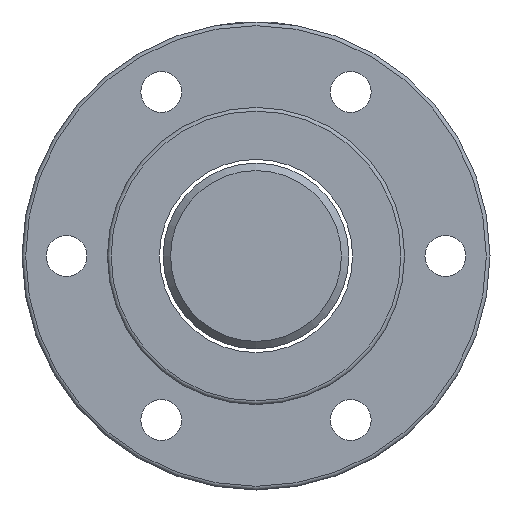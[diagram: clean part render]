
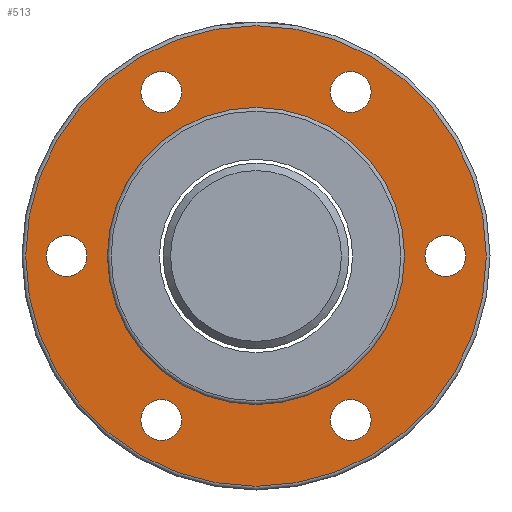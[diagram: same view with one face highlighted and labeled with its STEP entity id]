
A CAD part, left-side view. The second image highlights one B-rep face of the part: STEP entity #513.
In plain terms, the highlighted planar face has unit normal (-1, 0, 0).
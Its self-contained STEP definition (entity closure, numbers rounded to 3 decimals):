
#5 = AXIS2_PLACEMENT_3D ( 'NONE', #1270, #1918, #1962 ) ;
#11 = VERTEX_POINT ( 'NONE', #2876 ) ;
#31 = EDGE_CURVE ( 'NONE', #1355, #1355, #1048, .T. ) ;
#42 = DIRECTION ( 'NONE',  ( 0., 0., 1. ) ) ;
#51 = CIRCLE ( 'NONE', #1072, 2.75 ) ;
#85 = AXIS2_PLACEMENT_3D ( 'NONE', #2449, #1333, #42 ) ;
#100 = EDGE_CURVE ( 'NONE', #11, #11, #51, .T. ) ;
#110 = ORIENTED_EDGE ( 'NONE', *, *, #611, .F. ) ;
#229 = EDGE_LOOP ( 'NONE', ( #2832 ) ) ;
#232 = CARTESIAN_POINT ( 'NONE',  ( -26., 12.75, -22.084 ) ) ;
#242 = DIRECTION ( 'NONE',  ( 0., 0., 1. ) ) ;
#285 = AXIS2_PLACEMENT_3D ( 'NONE', #1301, #2373, #2155 ) ;
#329 = CARTESIAN_POINT ( 'NONE',  ( -26., -25.5, 2.75 ) ) ;
#349 = PLANE ( 'NONE',  #709 ) ;
#492 = CARTESIAN_POINT ( 'NONE',  ( -26., 25.5, 2.75 ) ) ;
#513 = ADVANCED_FACE ( 'NONE', ( #779, #514, #557, #2311, #2277, #1180, #2130, #2348 ), #349, .T. ) ;
#514 = FACE_BOUND ( 'NONE', #2396, .T. ) ;
#557 = FACE_BOUND ( 'NONE', #1747, .T. ) ;
#611 = EDGE_CURVE ( 'NONE', #2243, #2243, #1545, .T. ) ;
#645 = DIRECTION ( 'NONE',  ( -1., 0., 0. ) ) ;
#656 = CARTESIAN_POINT ( 'NONE',  ( -26., -12.75, 24.834 ) ) ;
#663 = CIRCLE ( 'NONE', #1638, 2.75 ) ;
#709 = AXIS2_PLACEMENT_3D ( 'NONE', #2382, #1025, #792 ) ;
#740 = DIRECTION ( 'NONE',  ( 0., 0., 1. ) ) ;
#771 = EDGE_LOOP ( 'NONE', ( #110 ) ) ;
#779 = FACE_BOUND ( 'NONE', #2174, .T. ) ;
#792 = DIRECTION ( 'NONE',  ( 0., 0., 1. ) ) ;
#808 = EDGE_LOOP ( 'NONE', ( #1277 ) ) ;
#819 = EDGE_CURVE ( 'NONE', #2499, #2499, #663, .T. ) ;
#848 = DIRECTION ( 'NONE',  ( -1., 0., 0. ) ) ;
#925 = EDGE_LOOP ( 'NONE', ( #2376 ) ) ;
#942 = EDGE_LOOP ( 'NONE', ( #2091 ) ) ;
#999 = CARTESIAN_POINT ( 'NONE',  ( -26., -25.5, 0. ) ) ;
#1025 = DIRECTION ( 'NONE',  ( -1., 0., 0. ) ) ;
#1048 = CIRCLE ( 'NONE', #2886, 2.75 ) ;
#1072 = AXIS2_PLACEMENT_3D ( 'NONE', #232, #848, #1565 ) ;
#1123 = AXIS2_PLACEMENT_3D ( 'NONE', #2773, #2121, #740 ) ;
#1131 = CARTESIAN_POINT ( 'NONE',  ( -26., 0., -20. ) ) ;
#1180 = FACE_BOUND ( 'NONE', #808, .T. ) ;
#1204 = VERTEX_POINT ( 'NONE', #329 ) ;
#1231 = ORIENTED_EDGE ( 'NONE', *, *, #2250, .F. ) ;
#1232 = EDGE_CURVE ( 'NONE', #2445, #2445, #2210, .T. ) ;
#1270 = CARTESIAN_POINT ( 'NONE',  ( -26., 0., 0. ) ) ;
#1277 = ORIENTED_EDGE ( 'NONE', *, *, #1859, .F. ) ;
#1301 = CARTESIAN_POINT ( 'NONE',  ( -26., 0., 0. ) ) ;
#1333 = DIRECTION ( 'NONE',  ( -1., 0., 0. ) ) ;
#1355 = VERTEX_POINT ( 'NONE', #2459 ) ;
#1382 = CIRCLE ( 'NONE', #85, 2.75 ) ;
#1400 = DIRECTION ( 'NONE',  ( -1., 0., 0. ) ) ;
#1416 = DIRECTION ( 'NONE',  ( 0., 0., 1. ) ) ;
#1475 = AXIS2_PLACEMENT_3D ( 'NONE', #999, #1400, #1416 ) ;
#1480 = DIRECTION ( 'NONE',  ( -1., 0., 0. ) ) ;
#1523 = ORIENTED_EDGE ( 'NONE', *, *, #1232, .F. ) ;
#1539 = DIRECTION ( 'NONE',  ( 0., 0., 1. ) ) ;
#1545 = CIRCLE ( 'NONE', #5, 31. ) ;
#1565 = DIRECTION ( 'NONE',  ( 0., 0., 1. ) ) ;
#1579 = VERTEX_POINT ( 'NONE', #1131 ) ;
#1593 = EDGE_CURVE ( 'NONE', #1579, #1579, #2580, .T. ) ;
#1638 = AXIS2_PLACEMENT_3D ( 'NONE', #2600, #1480, #242 ) ;
#1747 = EDGE_LOOP ( 'NONE', ( #1990 ) ) ;
#1768 = CIRCLE ( 'NONE', #1475, 2.75 ) ;
#1829 = CARTESIAN_POINT ( 'NONE',  ( -26., 12.75, 24.834 ) ) ;
#1859 = EDGE_CURVE ( 'NONE', #2894, #2894, #1382, .T. ) ;
#1918 = DIRECTION ( 'NONE',  ( 1., 0., 0. ) ) ;
#1962 = DIRECTION ( 'NONE',  ( 0., 0., -1. ) ) ;
#1990 = ORIENTED_EDGE ( 'NONE', *, *, #100, .F. ) ;
#2091 = ORIENTED_EDGE ( 'NONE', *, *, #819, .F. ) ;
#2121 = DIRECTION ( 'NONE',  ( -1., 0., 0. ) ) ;
#2130 = FACE_BOUND ( 'NONE', #925, .T. ) ;
#2155 = DIRECTION ( 'NONE',  ( 0., 0., -1. ) ) ;
#2174 = EDGE_LOOP ( 'NONE', ( #1523 ) ) ;
#2210 = CIRCLE ( 'NONE', #1123, 2.75 ) ;
#2243 = VERTEX_POINT ( 'NONE', #2487 ) ;
#2250 = EDGE_CURVE ( 'NONE', #1204, #1204, #1768, .T. ) ;
#2277 = FACE_BOUND ( 'NONE', #942, .T. ) ;
#2311 = FACE_BOUND ( 'NONE', #229, .T. ) ;
#2348 = FACE_OUTER_BOUND ( 'NONE', #771, .T. ) ;
#2373 = DIRECTION ( 'NONE',  ( 1., 0., 0. ) ) ;
#2376 = ORIENTED_EDGE ( 'NONE', *, *, #1593, .T. ) ;
#2382 = CARTESIAN_POINT ( 'NONE',  ( -26., 25.5, 0. ) ) ;
#2396 = EDGE_LOOP ( 'NONE', ( #1231 ) ) ;
#2445 = VERTEX_POINT ( 'NONE', #492 ) ;
#2449 = CARTESIAN_POINT ( 'NONE',  ( -26., 12.75, 22.084 ) ) ;
#2459 = CARTESIAN_POINT ( 'NONE',  ( -26., -12.75, -19.334 ) ) ;
#2487 = CARTESIAN_POINT ( 'NONE',  ( -26., 0., -31. ) ) ;
#2499 = VERTEX_POINT ( 'NONE', #656 ) ;
#2580 = CIRCLE ( 'NONE', #285, 20. ) ;
#2600 = CARTESIAN_POINT ( 'NONE',  ( -26., -12.75, 22.084 ) ) ;
#2773 = CARTESIAN_POINT ( 'NONE',  ( -26., 25.5, 0. ) ) ;
#2832 = ORIENTED_EDGE ( 'NONE', *, *, #31, .F. ) ;
#2876 = CARTESIAN_POINT ( 'NONE',  ( -26., 12.75, -19.334 ) ) ;
#2886 = AXIS2_PLACEMENT_3D ( 'NONE', #2888, #645, #1539 ) ;
#2888 = CARTESIAN_POINT ( 'NONE',  ( -26., -12.75, -22.084 ) ) ;
#2894 = VERTEX_POINT ( 'NONE', #1829 ) ;
